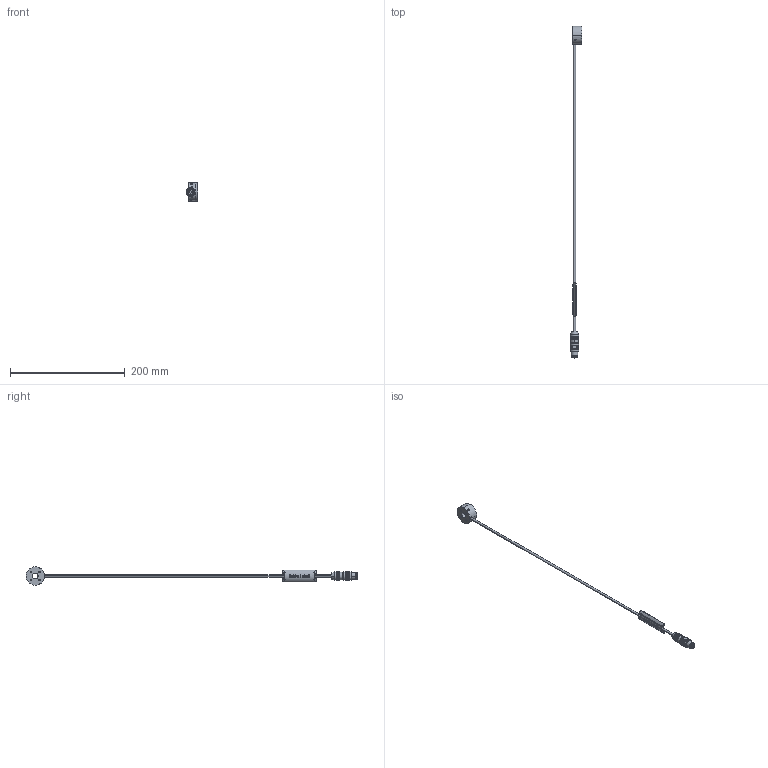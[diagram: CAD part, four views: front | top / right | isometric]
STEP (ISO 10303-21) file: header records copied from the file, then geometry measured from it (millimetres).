
FILE_DESCRIPTION (( 'STEP AP214' ), '1' );
FILE_NAME ('CV-R-32X10-70W-M12_A21759A0100901A-001.STEP', '2024-04-18T02:54:54', ( '' ), ( '' ), 'SwSTEP 2.0', 'SolidWorks 2023', '' );
FILE_SCHEMA (( 'AUTOMOTIVE_DESIGN' ));
Length unit declared in the file: millimetre
Products named in the file (1): CV-R-32X10-70W-M12_A21759A0100901A-001
Bounding box: 20.65 x 578.75 x 32 mm (x, y, z)
Volume: 22337.8 mm3; surface area: 18368.2 mm2
Topology: 4 solids, 6 shells, 1359 faces, 3677 edges, 2394 vertices
Faces by surface type: plane 664, cylinder 433, bspline 122, cone 62, sphere 60, torus 18
Entity records: 46801 total; most frequent: CARTESIAN_POINT 13637, ORIENTED_EDGE 7234, DIRECTION 6357, EDGE_CURVE 3617, VERTEX_POINT 2394, AXIS2_PLACEMENT_3D 2278, LINE 1801, VECTOR 1801
